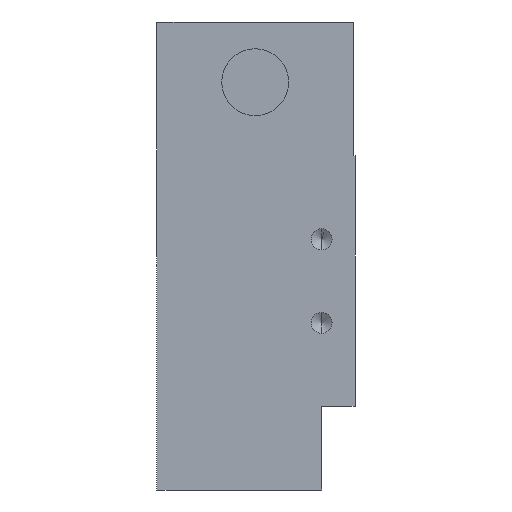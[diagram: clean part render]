
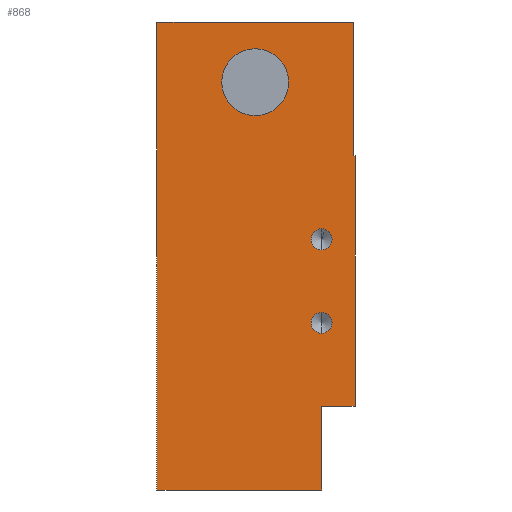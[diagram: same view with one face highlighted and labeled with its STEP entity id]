
A CAD part, left-side view. The second image highlights one B-rep face of the part: STEP entity #868.
In plain terms, the highlighted planar face has unit normal (-1, 0, 0).
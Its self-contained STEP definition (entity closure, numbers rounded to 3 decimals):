
#10 = EDGE_CURVE ( 'NONE', #388, #1029, #1005, .T. ) ;
#41 = LINE ( 'NONE', #702, #1113 ) ;
#60 = EDGE_LOOP ( 'NONE', ( #539, #811, #2286, #2207, #68, #1474, #580, #1466 ) ) ;
#68 = ORIENTED_EDGE ( 'NONE', *, *, #2394, .F. ) ;
#72 = AXIS2_PLACEMENT_3D ( 'NONE', #1064, #1088, #336 ) ;
#98 = VERTEX_POINT ( 'NONE', #420 ) ;
#107 = CARTESIAN_POINT ( 'NONE',  ( -111.5, 4., -8. ) ) ;
#138 = CARTESIAN_POINT ( 'NONE',  ( -111.5, 11.95, 16.8 ) ) ;
#139 = CARTESIAN_POINT ( 'NONE',  ( -111.5, 4., -6.75 ) ) ;
#153 = DIRECTION ( 'NONE',  ( -1., 0., 0. ) ) ;
#192 = AXIS2_PLACEMENT_3D ( 'NONE', #1262, #153, #2343 ) ;
#219 = EDGE_CURVE ( 'NONE', #1927, #1029, #2047, .T. ) ;
#238 = CARTESIAN_POINT ( 'NONE',  ( -111.5, 4., 2. ) ) ;
#251 = CIRCLE ( 'NONE', #72, 4. ) ;
#301 = VECTOR ( 'NONE', #1157, 1000. ) ;
#336 = DIRECTION ( 'NONE',  ( 0., 0., -1. ) ) ;
#350 = AXIS2_PLACEMENT_3D ( 'NONE', #1521, #1150, #625 ) ;
#388 = VERTEX_POINT ( 'NONE', #975 ) ;
#391 = ORIENTED_EDGE ( 'NONE', *, *, #1080, .F. ) ;
#418 = EDGE_LOOP ( 'NONE', ( #1838, #1230 ) ) ;
#420 = CARTESIAN_POINT ( 'NONE',  ( -111.5, 4., 0.75 ) ) ;
#454 = VERTEX_POINT ( 'NONE', #658 ) ;
#494 = VECTOR ( 'NONE', #1891, 1000. ) ;
#500 = VECTOR ( 'NONE', #667, 1000. ) ;
#518 = EDGE_LOOP ( 'NONE', ( #1855, #1048 ) ) ;
#521 = CIRCLE ( 'NONE', #350, 1.25 ) ;
#537 = DIRECTION ( 'NONE',  ( 1., 0., 0. ) ) ;
#539 = ORIENTED_EDGE ( 'NONE', *, *, #10, .F. ) ;
#550 = DIRECTION ( 'NONE',  ( 0., -1., 0. ) ) ;
#564 = AXIS2_PLACEMENT_3D ( 'NONE', #1078, #1601, #2165 ) ;
#571 = CIRCLE ( 'NONE', #564, 4. ) ;
#580 = ORIENTED_EDGE ( 'NONE', *, *, #1978, .F. ) ;
#610 = DIRECTION ( 'NONE',  ( 0., 0., 1. ) ) ;
#625 = DIRECTION ( 'NONE',  ( 0., 0., 1. ) ) ;
#630 = VECTOR ( 'NONE', #1689, 1000. ) ;
#637 = CARTESIAN_POINT ( 'NONE',  ( -111.5, 4., -9.25 ) ) ;
#658 = CARTESIAN_POINT ( 'NONE',  ( -111.5, 23.7, 28. ) ) ;
#667 = DIRECTION ( 'NONE',  ( 0., -1., 0. ) ) ;
#702 = CARTESIAN_POINT ( 'NONE',  ( -111.5, 23.7, 28. ) ) ;
#711 = AXIS2_PLACEMENT_3D ( 'NONE', #107, #1362, #1032 ) ;
#727 = LINE ( 'NONE', #1415, #1143 ) ;
#747 = CARTESIAN_POINT ( 'NONE',  ( -111.5, 0.2, 12. ) ) ;
#766 = FACE_OUTER_BOUND ( 'NONE', #60, .T. ) ;
#785 = EDGE_LOOP ( 'NONE', ( #2241, #391 ) ) ;
#798 = CARTESIAN_POINT ( 'NONE',  ( -111.5, 4., -18. ) ) ;
#811 = ORIENTED_EDGE ( 'NONE', *, *, #1771, .T. ) ;
#868 = ADVANCED_FACE ( 'NONE', ( #2220, #969, #1529, #766 ), #1836, .F. ) ;
#969 = FACE_BOUND ( 'NONE', #785, .T. ) ;
#973 = CARTESIAN_POINT ( 'NONE',  ( -111.5, 4., 3.25 ) ) ;
#975 = CARTESIAN_POINT ( 'NONE',  ( -111.5, 4., -18. ) ) ;
#985 = LINE ( 'NONE', #798, #301 ) ;
#987 = VERTEX_POINT ( 'NONE', #138 ) ;
#1005 = LINE ( 'NONE', #1885, #494 ) ;
#1029 = VERTEX_POINT ( 'NONE', #1111 ) ;
#1032 = DIRECTION ( 'NONE',  ( 0., 0., 1. ) ) ;
#1048 = ORIENTED_EDGE ( 'NONE', *, *, #2114, .F. ) ;
#1064 = CARTESIAN_POINT ( 'NONE',  ( -111.5, 11.95, 20.8 ) ) ;
#1078 = CARTESIAN_POINT ( 'NONE',  ( -111.5, 11.95, 20.8 ) ) ;
#1080 = EDGE_CURVE ( 'NONE', #1752, #2012, #521, .T. ) ;
#1088 = DIRECTION ( 'NONE',  ( -1., 0., 0. ) ) ;
#1111 = CARTESIAN_POINT ( 'NONE',  ( -111.5, 4., -28. ) ) ;
#1113 = VECTOR ( 'NONE', #1237, 1000. ) ;
#1143 = VECTOR ( 'NONE', #2155, 1000. ) ;
#1150 = DIRECTION ( 'NONE',  ( -1., 0., 0. ) ) ;
#1157 = DIRECTION ( 'NONE',  ( 0., -1., 0. ) ) ;
#1163 = EDGE_CURVE ( 'NONE', #98, #1687, #1183, .T. ) ;
#1175 = AXIS2_PLACEMENT_3D ( 'NONE', #1634, #537, #2206 ) ;
#1183 = CIRCLE ( 'NONE', #2075, 1.25 ) ;
#1193 = EDGE_CURVE ( 'NONE', #2012, #1752, #1643, .T. ) ;
#1206 = CARTESIAN_POINT ( 'NONE',  ( -111.5, 0.2, 12. ) ) ;
#1230 = ORIENTED_EDGE ( 'NONE', *, *, #1163, .F. ) ;
#1237 = DIRECTION ( 'NONE',  ( 0., -1., 0. ) ) ;
#1243 = CARTESIAN_POINT ( 'NONE',  ( -111.5, 0., 28. ) ) ;
#1262 = CARTESIAN_POINT ( 'NONE',  ( -111.5, 4., 2. ) ) ;
#1295 = VERTEX_POINT ( 'NONE', #2133 ) ;
#1305 = CARTESIAN_POINT ( 'NONE',  ( -111.5, 0., 12. ) ) ;
#1310 = CARTESIAN_POINT ( 'NONE',  ( -111.5, 0.2, 28. ) ) ;
#1312 = LINE ( 'NONE', #1206, #500 ) ;
#1362 = DIRECTION ( 'NONE',  ( -1., 0., 0. ) ) ;
#1363 = EDGE_CURVE ( 'NONE', #1295, #1626, #1902, .T. ) ;
#1415 = CARTESIAN_POINT ( 'NONE',  ( -111.5, 23.7, 28. ) ) ;
#1466 = ORIENTED_EDGE ( 'NONE', *, *, #219, .T. ) ;
#1474 = ORIENTED_EDGE ( 'NONE', *, *, #1992, .F. ) ;
#1521 = CARTESIAN_POINT ( 'NONE',  ( -111.5, 4., -8. ) ) ;
#1529 = FACE_BOUND ( 'NONE', #518, .T. ) ;
#1538 = VERTEX_POINT ( 'NONE', #747 ) ;
#1601 = DIRECTION ( 'NONE',  ( -1., 0., 0. ) ) ;
#1607 = VECTOR ( 'NONE', #550, 1000. ) ;
#1626 = VERTEX_POINT ( 'NONE', #1305 ) ;
#1634 = CARTESIAN_POINT ( 'NONE',  ( -111.5, 23.7, 28. ) ) ;
#1643 = CIRCLE ( 'NONE', #711, 1.25 ) ;
#1682 = VECTOR ( 'NONE', #1765, 1000. ) ;
#1683 = DIRECTION ( 'NONE',  ( -1., 0., 0. ) ) ;
#1687 = VERTEX_POINT ( 'NONE', #973 ) ;
#1689 = DIRECTION ( 'NONE',  ( 0., 0., -1. ) ) ;
#1752 = VERTEX_POINT ( 'NONE', #637 ) ;
#1765 = DIRECTION ( 'NONE',  ( 0., 0., 1. ) ) ;
#1771 = EDGE_CURVE ( 'NONE', #388, #1295, #985, .T. ) ;
#1810 = EDGE_CURVE ( 'NONE', #1538, #1626, #1312, .T. ) ;
#1812 = VERTEX_POINT ( 'NONE', #1923 ) ;
#1836 = PLANE ( 'NONE',  #1175 ) ;
#1838 = ORIENTED_EDGE ( 'NONE', *, *, #2135, .F. ) ;
#1855 = ORIENTED_EDGE ( 'NONE', *, *, #2228, .F. ) ;
#1885 = CARTESIAN_POINT ( 'NONE',  ( -111.5, 4., -28. ) ) ;
#1891 = DIRECTION ( 'NONE',  ( 0., 0., -1. ) ) ;
#1902 = LINE ( 'NONE', #1243, #1682 ) ;
#1923 = CARTESIAN_POINT ( 'NONE',  ( -111.5, 11.95, 24.8 ) ) ;
#1927 = VERTEX_POINT ( 'NONE', #1987 ) ;
#1978 = EDGE_CURVE ( 'NONE', #1927, #454, #727, .T. ) ;
#1987 = CARTESIAN_POINT ( 'NONE',  ( -111.5, 23.7, -28. ) ) ;
#1992 = EDGE_CURVE ( 'NONE', #454, #2285, #41, .T. ) ;
#2012 = VERTEX_POINT ( 'NONE', #139 ) ;
#2043 = CARTESIAN_POINT ( 'NONE',  ( -111.5, 23.7, -28. ) ) ;
#2047 = LINE ( 'NONE', #2043, #1607 ) ;
#2061 = CIRCLE ( 'NONE', #192, 1.25 ) ;
#2075 = AXIS2_PLACEMENT_3D ( 'NONE', #238, #1683, #610 ) ;
#2114 = EDGE_CURVE ( 'NONE', #1812, #987, #251, .T. ) ;
#2133 = CARTESIAN_POINT ( 'NONE',  ( -111.5, 0., -18. ) ) ;
#2135 = EDGE_CURVE ( 'NONE', #1687, #98, #2061, .T. ) ;
#2155 = DIRECTION ( 'NONE',  ( 0., 0., 1. ) ) ;
#2165 = DIRECTION ( 'NONE',  ( 0., 0., -1. ) ) ;
#2206 = DIRECTION ( 'NONE',  ( 0., 0., -1. ) ) ;
#2207 = ORIENTED_EDGE ( 'NONE', *, *, #1810, .F. ) ;
#2220 = FACE_BOUND ( 'NONE', #418, .T. ) ;
#2228 = EDGE_CURVE ( 'NONE', #987, #1812, #571, .T. ) ;
#2230 = CARTESIAN_POINT ( 'NONE',  ( -111.5, 0.2, 28. ) ) ;
#2241 = ORIENTED_EDGE ( 'NONE', *, *, #1193, .F. ) ;
#2285 = VERTEX_POINT ( 'NONE', #2230 ) ;
#2286 = ORIENTED_EDGE ( 'NONE', *, *, #1363, .T. ) ;
#2323 = LINE ( 'NONE', #1310, #630 ) ;
#2343 = DIRECTION ( 'NONE',  ( 0., 0., 1. ) ) ;
#2394 = EDGE_CURVE ( 'NONE', #2285, #1538, #2323, .T. ) ;
